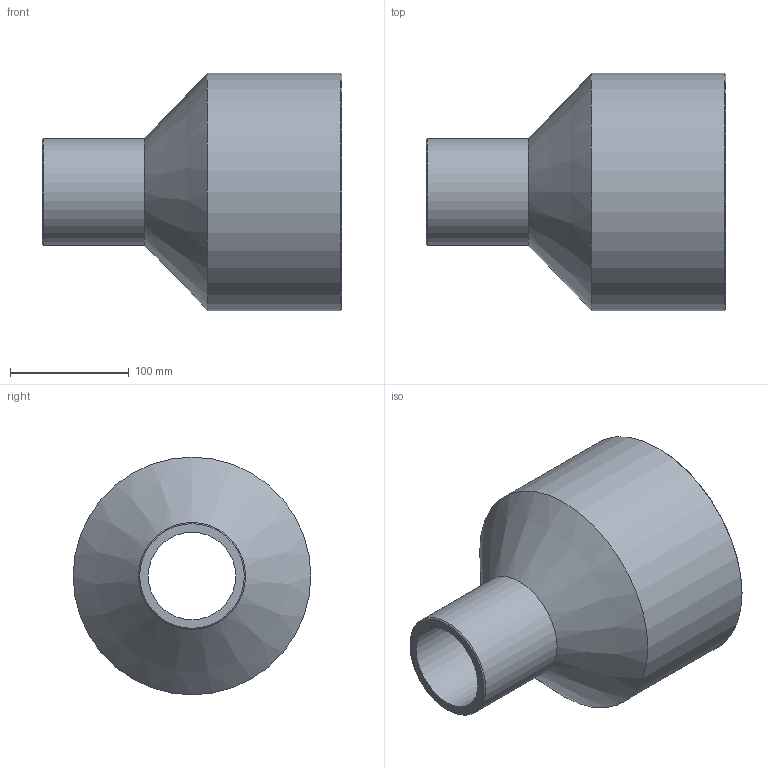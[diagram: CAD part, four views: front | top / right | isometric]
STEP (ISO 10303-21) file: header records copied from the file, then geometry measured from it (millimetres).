
FILE_DESCRIPTION(/* description */ ('Unknown'),/* implementation_level */ '2;1');
FILE_NAME(/* name */ 'RP200090C',/* time_stamp */ '2021-09-17T15:19:57+02:00',/* author */ ('Unknown'),/* organization */ ('Unknown'),/* preprocessor_version */ 'ST-DEVELOPER v16.7',/* originating_system */ 'Solid Edge',/* authorisation */ 'Unknown');
FILE_SCHEMA (('AUTOMOTIVE_DESIGN {1 0 10303 214 3 1 1}'));
Length unit declared in the file: millimetre
Products named in the file (1): RP200090C
Bounding box: 252 x 200 x 200 mm (x, y, z)
Volume: 1763774.5 mm3; surface area: 243910.1 mm2
Topology: 1 solids, 1 shells, 10 faces, 19 edges, 11 vertices
Faces by surface type: cylinder 4, cone 4, plane 2
Full cylindrical faces by diameter (mm): 73.6 x1, 90 x1, 163.6 x1, 200 x1
Entity records: 238 total; most frequent: DIRECTION 42, CARTESIAN_POINT 31, AXIS2_PLACEMENT_3D 21, ORIENTED_EDGE 20, EDGE_LOOP 20, FACE_BOUND 20, EDGE_CURVE 10, VERTEX_POINT 10
